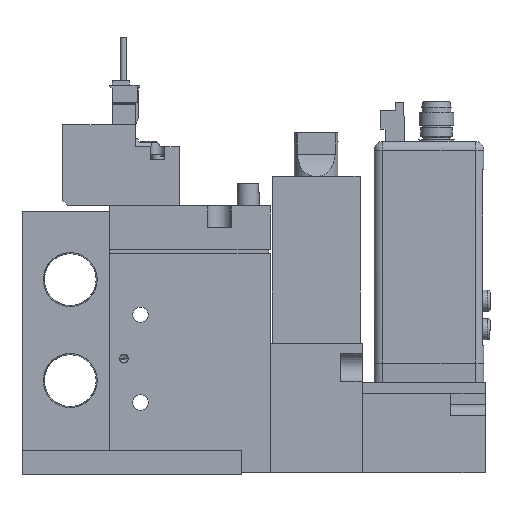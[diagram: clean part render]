
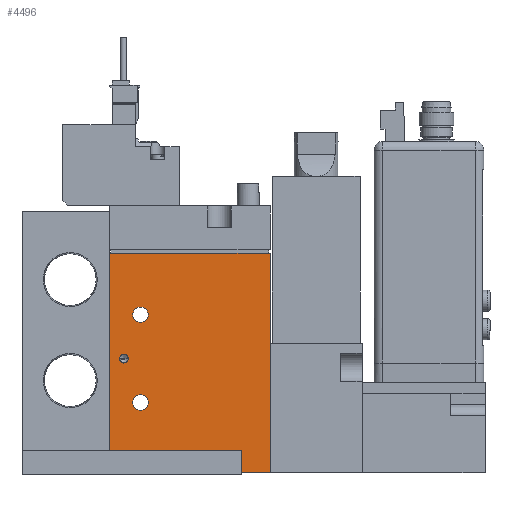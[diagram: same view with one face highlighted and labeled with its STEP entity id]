
A CAD part, left-side view. The second image highlights one B-rep face of the part: STEP entity #4496.
In plain terms, the highlighted planar face has unit normal (-1, 0, 0) as drawn and (1, 0, 0) by its records, which use the part's own axes.
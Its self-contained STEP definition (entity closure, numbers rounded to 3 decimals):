
#4496=ADVANCED_FACE('',(#9406,#9407,#9408,#9409),#9410,.F.);
#9406=FACE_BOUND('',#16413,.T.);
#9407=FACE_BOUND('',#16414,.T.);
#9408=FACE_BOUND('',#16415,.T.);
#9409=FACE_OUTER_BOUND('',#16416,.T.);
#9410=PLANE('',#16417);
#16413=EDGE_LOOP('',(#31185));
#16414=EDGE_LOOP('',(#31186));
#16415=EDGE_LOOP('',(#31187));
#16416=EDGE_LOOP('',(#31188,#31189,#31190,#31191));
#16417=AXIS2_PLACEMENT_3D('',#31192,#31193,#31194);
#31185=ORIENTED_EDGE('',*,*,#47732,.F.);
#31186=ORIENTED_EDGE('',*,*,#47733,.T.);
#31187=ORIENTED_EDGE('',*,*,#47726,.T.);
#31188=ORIENTED_EDGE('',*,*,#47711,.T.);
#31189=ORIENTED_EDGE('',*,*,#47718,.F.);
#31190=ORIENTED_EDGE('',*,*,#47715,.F.);
#31191=ORIENTED_EDGE('',*,*,#47729,.T.);
#31192=CARTESIAN_POINT('',(8.5,-19.444,50.0));
#31193=DIRECTION('',(-1.0,0.0,0.0));
#31194=DIRECTION('',(0.0,0.0,1.0));
#47711=EDGE_CURVE('',#57603,#57601,#57604,.T.);
#47715=EDGE_CURVE('',#57609,#57611,#57612,.T.);
#47718=EDGE_CURVE('',#57611,#57601,#57615,.T.);
#47726=EDGE_CURVE('',#57627,#57627,#57628,.T.);
#47729=EDGE_CURVE('',#57609,#57603,#57633,.T.);
#47732=EDGE_CURVE('',#57636,#57636,#57637,.T.);
#47733=EDGE_CURVE('',#57638,#57638,#57639,.T.);
#57601=VERTEX_POINT('',#73336);
#57603=VERTEX_POINT('',#73339);
#57604=LINE('',#73340,#73341);
#57609=VERTEX_POINT('',#73348);
#57611=VERTEX_POINT('',#73351);
#57612=LINE('',#73352,#73353);
#57615=LINE('',#73358,#73359);
#57627=VERTEX_POINT('',#73372);
#57628=CIRCLE('',#73373,1.75);
#57633=LINE('',#73378,#73379);
#57636=VERTEX_POINT('',#73382);
#57637=CIRCLE('',#73383,1.0);
#57638=VERTEX_POINT('',#73384);
#57639=CIRCLE('',#73385,1.75);
#73336=CARTESIAN_POINT('',(8.5,17.056,0.0));
#73339=CARTESIAN_POINT('',(8.5,-19.444,0.0));
#73340=CARTESIAN_POINT('',(8.5,-19.444,0.0));
#73341=VECTOR('',#88206,1.0);
#73348=CARTESIAN_POINT('',(8.5,-19.444,50.0));
#73351=CARTESIAN_POINT('',(8.5,17.056,50.0));
#73352=CARTESIAN_POINT('',(8.5,-19.444,50.0));
#73353=VECTOR('',#88210,1.0);
#73358=CARTESIAN_POINT('',(8.5,17.056,50.0));
#73359=VECTOR('',#88213,1.0);
#73372=CARTESIAN_POINT('',(8.5,-10.694,16.0));
#73373=AXIS2_PLACEMENT_3D('',#88230,#88231,#88232);
#73378=CARTESIAN_POINT('',(8.5,-19.444,50.0));
#73379=VECTOR('',#88239,1.0);
#73382=CARTESIAN_POINT('',(8.5,-17.244,26.0));
#73383=AXIS2_PLACEMENT_3D('',#88243,#88244,#88245);
#73384=CARTESIAN_POINT('',(8.5,-10.694,36.0));
#73385=AXIS2_PLACEMENT_3D('',#88246,#88247,#88248);
#88206=DIRECTION('',(0.0,1.0,0.0));
#88210=DIRECTION('',(0.0,1.0,0.0));
#88213=DIRECTION('',(0.0,0.0,-1.0));
#88230=CARTESIAN_POINT('',(8.5,-12.444,16.0));
#88231=DIRECTION('',(-1.0,0.0,0.0));
#88232=DIRECTION('',(0.0,1.0,0.0));
#88239=DIRECTION('',(0.0,0.0,-1.0));
#88243=CARTESIAN_POINT('',(8.5,-16.244,26.0));
#88244=DIRECTION('',(1.0,0.,0.0));
#88245=DIRECTION('',(0.,-1.0,0.0));
#88246=CARTESIAN_POINT('',(8.5,-12.444,36.0));
#88247=DIRECTION('',(-1.0,0.0,0.0));
#88248=DIRECTION('',(0.0,1.0,0.0));
